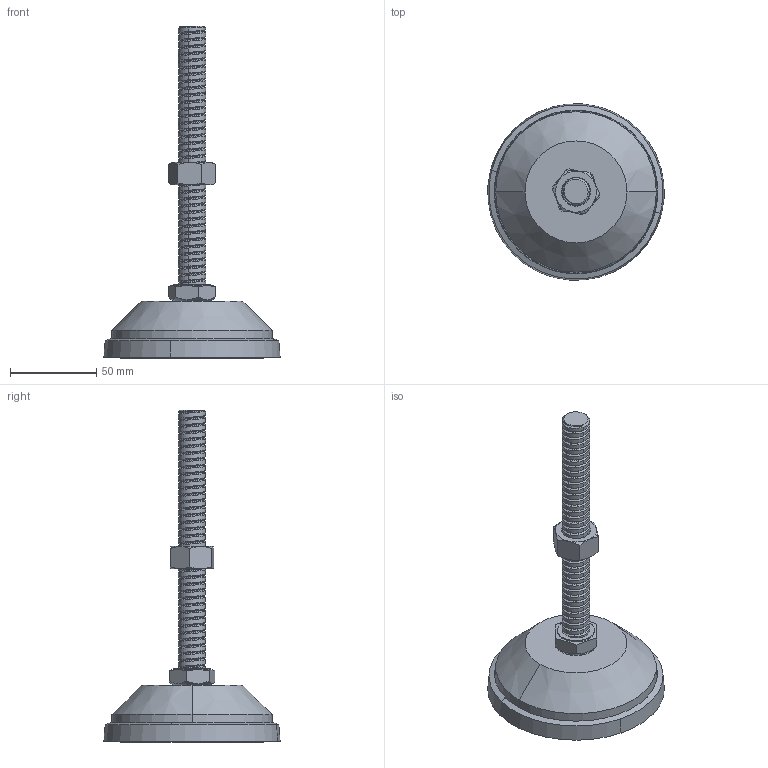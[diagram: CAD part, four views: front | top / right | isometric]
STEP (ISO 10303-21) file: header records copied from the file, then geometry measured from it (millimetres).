
FILE_DESCRIPTION (( 'STEP AP203' ), '1' );
FILE_NAME ('FS-106-2-16-L2.STEP', '2015-11-24T02:18:35', ( '' ), ( '' ), 'SwSTEP 2.0', 'SolidWorks 2014', '' );
FILE_SCHEMA (( 'CONFIG_CONTROL_DESIGN' ));
Length unit declared in the file: millimetre
Products named in the file (5): DS-M16X150L-12調整螺絲(壓花)-1; M16螺帽-5; FS-106-2-16-L2; 100橡膠止滑墊-1-1; 100圓腳座-3-1
Assembly tree (4 placements, depth 2):
  FS-106-2-16-L2
    100橡膠止滑墊-1-1
    100圓腳座-3-1
    DS-M16X150L-12調整螺絲(壓花)-1
    M16螺帽-5
Bounding box: 102.18 x 102.18 x 192.5 mm (x, y, z)
Volume: 212048.4 mm3; surface area: 59415 mm2
Topology: 4 solids, 4 shells, 247 faces, 600 edges, 379 vertices
Faces by surface type: cylinder 93, cone 53, bspline 53, plane 46, sphere 2
Entity records: 18763 total; most frequent: CARTESIAN_POINT 13468, ORIENTED_EDGE 1186, DIRECTION 795, EDGE_CURVE 593, VERTEX_POINT 376, AXIS2_PLACEMENT_3D 306, EDGE_LOOP 271, FACE_OUTER_BOUND 247
